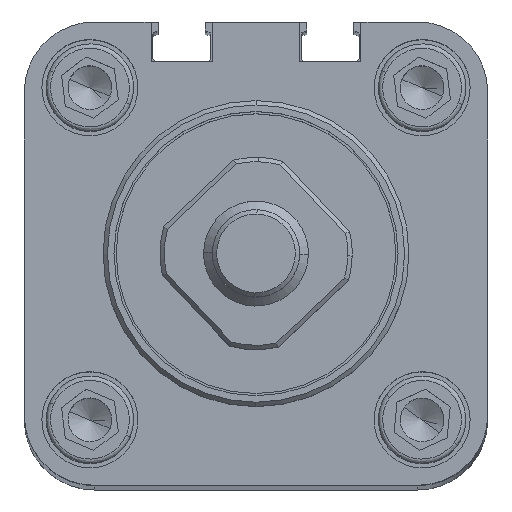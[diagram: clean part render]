
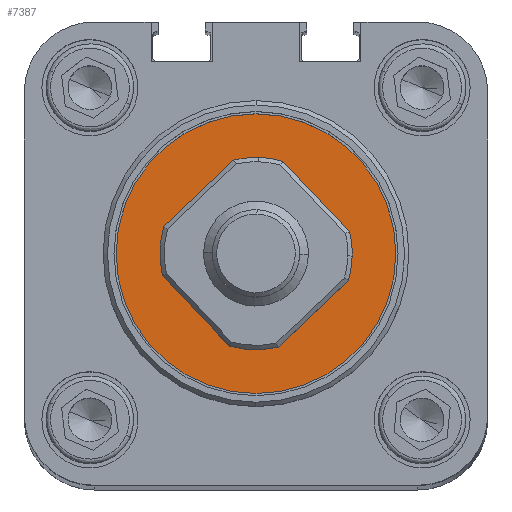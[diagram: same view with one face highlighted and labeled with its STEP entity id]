
A CAD part, top view. The second image highlights one B-rep face of the part: STEP entity #7387.
In plain terms, the highlighted planar face has unit normal (0, 0, 1).
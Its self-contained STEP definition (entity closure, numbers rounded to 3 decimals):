
#966 = CARTESIAN_POINT ( 'NONE',  ( 0., 0., 303. ) ) ;
#1772 = VERTEX_POINT ( 'NONE', #15794 ) ;
#3369 = CIRCLE ( 'NONE', #21778, 16. ) ;
#4946 = DIRECTION ( 'NONE',  ( 0., 0., 1. ) ) ;
#5165 = CARTESIAN_POINT ( 'NONE',  ( 0., 0., 303. ) ) ;
#6418 = ORIENTED_EDGE ( 'NONE', *, *, #24063, .T. ) ;
#6773 = CARTESIAN_POINT ( 'NONE',  ( 0., 16., 303. ) ) ;
#7387 = ADVANCED_FACE ( 'NONE', ( #22904 ), #22761, .F. ) ;
#8601 = DIRECTION ( 'NONE',  ( 0., -1., 0. ) ) ;
#9540 = EDGE_LOOP ( 'NONE', ( #6418, #20670 ) ) ;
#10289 = AXIS2_PLACEMENT_3D ( 'NONE', #5165, #11388, #25315 ) ;
#10561 = DIRECTION ( 'NONE',  ( 0., 0., -1. ) ) ;
#11388 = DIRECTION ( 'NONE',  ( 0., 0., 1. ) ) ;
#14510 = CIRCLE ( 'NONE', #10289, 16. ) ;
#15794 = CARTESIAN_POINT ( 'NONE',  ( 0., -16., 303. ) ) ;
#16586 = CARTESIAN_POINT ( 'NONE',  ( 0., 0., 303. ) ) ;
#16727 = AXIS2_PLACEMENT_3D ( 'NONE', #16586, #10561, #8601 ) ;
#18734 = EDGE_CURVE ( 'NONE', #1772, #23919, #14510, .T. ) ;
#20670 = ORIENTED_EDGE ( 'NONE', *, *, #18734, .T. ) ;
#21778 = AXIS2_PLACEMENT_3D ( 'NONE', #966, #4946, #25103 ) ;
#22761 = PLANE ( 'NONE',  #16727 ) ;
#22904 = FACE_OUTER_BOUND ( 'NONE', #9540, .T. ) ;
#23919 = VERTEX_POINT ( 'NONE', #6773 ) ;
#24063 = EDGE_CURVE ( 'NONE', #23919, #1772, #3369, .T. ) ;
#25103 = DIRECTION ( 'NONE',  ( 0., -1., 0. ) ) ;
#25315 = DIRECTION ( 'NONE',  ( 0., -1., 0. ) ) ;
